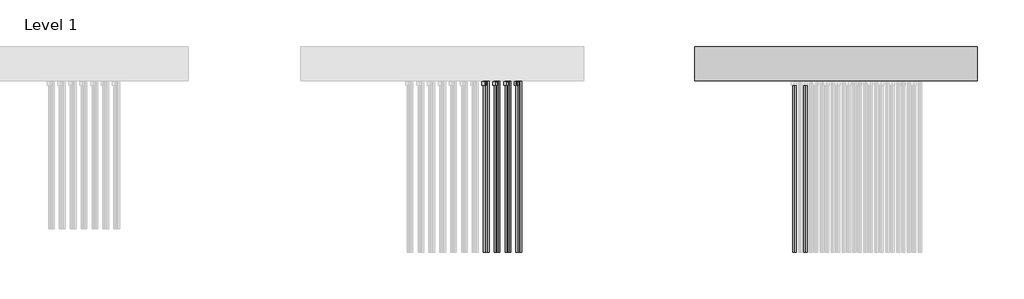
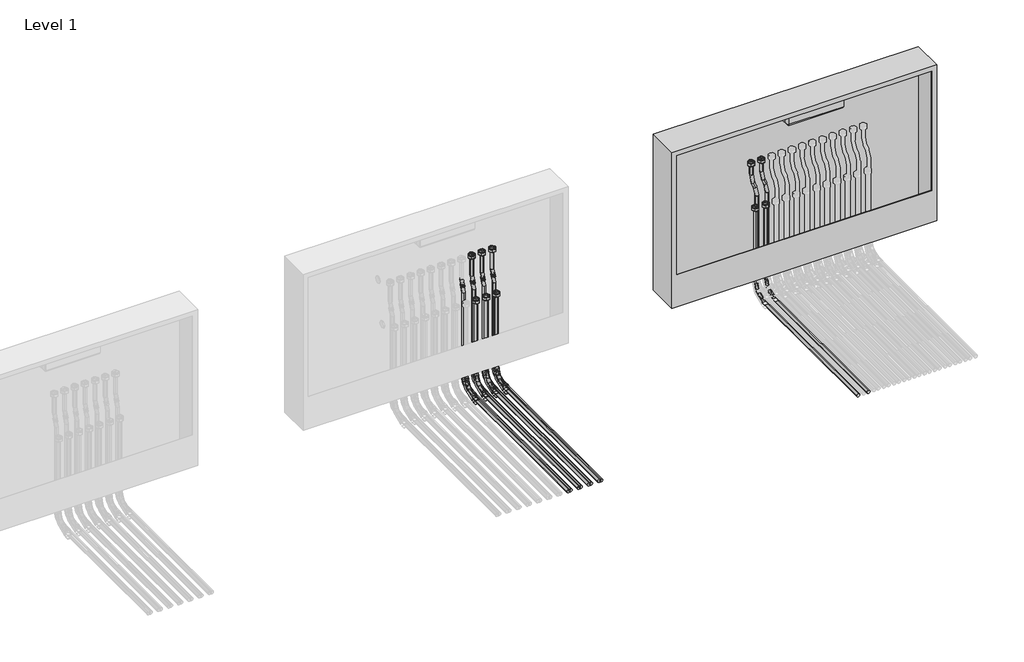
# One storey, part 13 of 15: 40 pipe fittings, 32 pipe segments, 1 proxy, 1 valve.
"""IFC4 building model written with IfcOpenShell, lengths in millimetres."""

from ifc_helpers import new_model, si_unit, point, frame, frame_2d, origin, place, context, project, spatial, circle_curve, trimmed, segment, composite_curve, outline, extrude, transform, mapped, element, save
from components import mechanical_equipment_387b3563, pipe_fitting_b05a7e06, pipe_fitting_27357a6d, pipe_fitting_daada113, pipe_fitting_3e503640, valve_75f531ea

model = new_model("IFC4")

# Units and contexts
model_context = context("Model", 3, world=origin())
ifc_project = project(units=[si_unit("LENGTHUNIT", "METRE", prefix="MILLI")], contexts=[model_context])

# Site, building, storey
site = spatial("IfcSite", under=ifc_project)
building = spatial("IfcBuilding", under=site)
storey = spatial("IfcBuildingStorey", under=building, Name="Level 1", Elevation=0.0)

# Proxy
placement = place(None, origin())
mechanical_equipment_shape = mechanical_equipment_387b3563(model_context)
element("IfcBuildingElementProxy", 1, Name="USYSTEMS_Контроллер UH-6 230В1 : Контроллер UH-6 230В 2", ObjectType="USYSTEMS_Контроллер UH-6 230В1 : Контроллер UH-6 230В 2", at=placement, inside=storey, context=model_context, shape_type="MappedRepresentation", body=[
    mapped(mechanical_equipment_shape, transform((16980.8519662, 3891.7221392, 729.375), x_axis=(1.0, 0.0, 0.0), y_axis=(0.0, 1.0, 0.0), z_axis=(0.0, 0.0, 1.0))),
])

# Pipe fittings
pipe_fitting_shape = pipe_fitting_b05a7e06(model_context)
element("IfcPipeFitting", 2, ObjectType="USYSTEMS_УгловойФиксатор_Multi : Угловой фиксатор", at=placement, inside=storey, context=model_context, shape_type="MappedRepresentation", body=[
    mapped(pipe_fitting_shape, transform((15254.1980115, 3819.7094543, -114.3211479), x_axis=(0.0, 0.0, -1.0), y_axis=(0.0, -1.0, 0.0), z_axis=(-1.0, 0.0, 0.0))),
])
element("IfcPipeFitting", 3, ObjectType="USYSTEMS_УгловойФиксатор_Multi : Угловой фиксатор", at=placement, inside=storey, context=model_context, shape_type="MappedRepresentation", body=[
    mapped(pipe_fitting_shape, transform((15264.283768, 3855.7094543, -114.3211479), x_axis=(0.0, 0.0, -1.0), y_axis=(0.0, -1.0, 0.0), z_axis=(-1.0, 0.0, 0.0))),
])
element("IfcPipeFitting", 4, ObjectType="USYSTEMS_УгловойФиксатор_Multi : Угловой фиксатор", at=placement, inside=storey, context=model_context, shape_type="MappedRepresentation", body=[
    mapped(pipe_fitting_shape, transform((15304.1980115, 3819.7094543, -114.3211479), x_axis=(0.0, 0.0, -1.0), y_axis=(0.0, -1.0, 0.0), z_axis=(-1.0, 0.0, 0.0))),
])
element("IfcPipeFitting", 5, ObjectType="USYSTEMS_УгловойФиксатор_Multi : Угловой фиксатор", at=placement, inside=storey, context=model_context, shape_type="MappedRepresentation", body=[
    mapped(pipe_fitting_shape, transform((15314.283768, 3855.7097764, -114.3211479), x_axis=(0.0, 0.0, -1.0), y_axis=(0.0, -1.0, 0.0), z_axis=(-1.0, 0.0, 0.0))),
])
element("IfcPipeFitting", 6, ObjectType="USYSTEMS_УгловойФиксатор_Multi : Угловой фиксатор", at=placement, inside=storey, context=model_context, shape_type="MappedRepresentation", body=[
    mapped(pipe_fitting_shape, transform((15354.1980115, 3819.7097764, -114.3211479), x_axis=(0.0, 0.0, -1.0), y_axis=(0.0, -1.0, 0.0), z_axis=(-1.0, 0.0, 0.0))),
])
element("IfcPipeFitting", 7, ObjectType="USYSTEMS_УгловойФиксатор_Multi : Угловой фиксатор", at=placement, inside=storey, context=model_context, shape_type="MappedRepresentation", body=[
    mapped(pipe_fitting_shape, transform((15364.283768, 3855.7097764, -114.3211479), x_axis=(0.0, 0.0, -1.0), y_axis=(0.0, -1.0, 0.0), z_axis=(-1.0, 0.0, 0.0))),
])
element("IfcPipeFitting", 8, ObjectType="USYSTEMS_УгловойФиксатор_Multi : Угловой фиксатор", at=placement, inside=storey, context=model_context, shape_type="MappedRepresentation", body=[
    mapped(pipe_fitting_shape, transform((15404.1980115, 3819.7094543, -114.3211479), x_axis=(0.0, 0.0, -1.0), y_axis=(0.0, -1.0, 0.0), z_axis=(-1.0, 0.0, 0.0))),
])
element("IfcPipeFitting", 9, ObjectType="USYSTEMS_УгловойФиксатор_Multi : Угловой фиксатор", at=placement, inside=storey, context=model_context, shape_type="MappedRepresentation", body=[
    mapped(pipe_fitting_shape, transform((15414.283768, 3855.7097764, -114.3211479), x_axis=(0.0, 0.0, -1.0), y_axis=(0.0, -1.0, 0.0), z_axis=(-1.0, 0.0, 0.0))),
])
pipe_fitting_2_shape = pipe_fitting_27357a6d(model_context)
element("IfcPipeFitting", 10, ObjectType="USYSTEMS_Штуцер с внутренней резьбой_FlexX_PEX : 16x2,0 x 3/4\" ВР Евроконус", at=placement, inside=storey, context=model_context, shape_type="MappedRepresentation", body=[
    mapped(pipe_fitting_2_shape, transform((15304.1980115, 3819.7099144, 328.3084133), x_axis=(0.0, 0.0, 1.0), y_axis=(0.0, 1.0, 0.0), z_axis=(-1.0, 0.0, 0.0))),
])
element("IfcPipeFitting", 11, ObjectType="USYSTEMS_Штуцер с внутренней резьбой_FlexX_PEX : 16x2,0 x 3/4\" ВР Евроконус", at=placement, inside=storey, context=model_context, shape_type="MappedRepresentation", body=[
    mapped(pipe_fitting_2_shape, transform((15304.1980115, 3855.7099144, 538.3084133), x_axis=(0.0, 0.0, 1.0), y_axis=(0.0, 1.0, 0.0), z_axis=(-1.0, 0.0, 0.0))),
])
element("IfcPipeFitting", 12, ObjectType="USYSTEMS_Штуцер с внутренней резьбой_FlexX_PEX : 16x2,0 x 3/4\" ВР Евроконус", at=placement, inside=storey, context=model_context, shape_type="MappedRepresentation", body=[
    mapped(pipe_fitting_2_shape, transform((15354.1980115, 3819.7099144, 328.3084133), x_axis=(0.0, 0.0, 1.0), y_axis=(0.0, 1.0, 0.0), z_axis=(-1.0, 0.0, 0.0))),
])
element("IfcPipeFitting", 13, ObjectType="USYSTEMS_Штуцер с внутренней резьбой_FlexX_PEX : 16x2,0 x 3/4\" ВР Евроконус", at=placement, inside=storey, context=model_context, shape_type="MappedRepresentation", body=[
    mapped(pipe_fitting_2_shape, transform((15354.1980115, 3855.7099144, 538.3084133), x_axis=(0.0, 0.0, 1.0), y_axis=(0.0, 1.0, 0.0), z_axis=(-1.0, 0.0, 0.0))),
])
element("IfcPipeFitting", 14, ObjectType="USYSTEMS_Штуцер с внутренней резьбой_FlexX_PEX : 16x2,0 x 3/4\" ВР Евроконус", at=placement, inside=storey, context=model_context, shape_type="MappedRepresentation", body=[
    mapped(pipe_fitting_2_shape, transform((15404.1980115, 3819.7099144, 328.3084133), x_axis=(0.0, 0.0, 1.0), y_axis=(0.0, 1.0, 0.0), z_axis=(-1.0, 0.0, 0.0))),
])
element("IfcPipeFitting", 15, ObjectType="USYSTEMS_Штуцер с внутренней резьбой_FlexX_PEX : 16x2,0 x 3/4\" ВР Евроконус", at=placement, inside=storey, context=model_context, shape_type="MappedRepresentation", body=[
    mapped(pipe_fitting_2_shape, transform((15404.1980115, 3855.7099144, 538.3084133), x_axis=(0.0, 0.0, 1.0), y_axis=(0.0, 1.0, 0.0), z_axis=(-1.0, 0.0, 0.0))),
])
element("IfcPipeFitting", 16, ObjectType="USYSTEMS_Штуцер с внутренней резьбой_FlexX_PEX : 16x2,0 x 3/4\" ВР Евроконус", at=placement, inside=storey, context=model_context, shape_type="MappedRepresentation", body=[
    mapped(pipe_fitting_2_shape, transform((16725.5332377, 3855.7850993, 538.3084133), x_axis=(0.0, 0.0, 1.0), y_axis=(0.0, 1.0, 0.0), z_axis=(-1.0, 0.0, 0.0))),
])
element("IfcPipeFitting", 17, ObjectType="USYSTEMS_Штуцер с внутренней резьбой_FlexX_PEX : 16x2,0 x 3/4\" ВР Евроконус", at=placement, inside=storey, context=model_context, shape_type="MappedRepresentation", body=[
    mapped(pipe_fitting_2_shape, transform((16725.5332377, 3819.7850993, 328.3084133), x_axis=(0.0, 0.0, 1.0), y_axis=(0.0, 1.0, 0.0), z_axis=(-1.0, 0.0, 0.0))),
])
element("IfcPipeFitting", 18, ObjectType="USYSTEMS_Штуцер с внутренней резьбой_FlexX_PEX : 16x2,0 x 3/4\" ВР Евроконус", at=placement, inside=storey, context=model_context, shape_type="MappedRepresentation", body=[
    mapped(pipe_fitting_2_shape, transform((16675.5332377, 3819.7850993, 328.3084133), x_axis=(0.0, 0.0, 1.0), y_axis=(0.0, 1.0, 0.0), z_axis=(-1.0, 0.0, 0.0))),
])
element("IfcPipeFitting", 19, ObjectType="USYSTEMS_Штуцер с внутренней резьбой_FlexX_PEX : 16x2,0 x 3/4\" ВР Евроконус", at=placement, inside=storey, context=model_context, shape_type="MappedRepresentation", body=[
    mapped(pipe_fitting_2_shape, transform((16675.5332377, 3855.7850993, 538.3084133), x_axis=(0.0, 0.0, 1.0), y_axis=(0.0, 1.0, 0.0), z_axis=(-1.0, 0.0, 0.0))),
])
pipe_fitting_3_shape = pipe_fitting_daada113(model_context)
element("IfcPipeFitting", 20, ObjectType="USYSTEMS_Гнутая труба_Radi Pipe : PN 6 в бухтах", at=placement, inside=storey, context=model_context, shape_type="MappedRepresentation", body=[
    mapped(pipe_fitting_3_shape, transform((15254.1980115, 3855.7091545, 414.5388211), x_axis=(0.0, 0.0, -1.0), y_axis=(1.0, 0.0, 0.0), z_axis=(0.0, -1.0, 0.0))),
])
element("IfcPipeFitting", 21, ObjectType="USYSTEMS_Гнутая труба_Radi Pipe : PN 6 в бухтах", at=placement, inside=storey, context=model_context, shape_type="MappedRepresentation", body=[
    mapped(pipe_fitting_3_shape, transform((15264.283768, 3855.7094543, 388.2645272), x_axis=(0.3583679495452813, 0.0, -0.9335804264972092), y_axis=(-0.9335804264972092, 0.0, -0.3583679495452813), z_axis=(0.0, 1.0, 0.0))),
])
element("IfcPipeFitting", 22, ObjectType="USYSTEMS_Гнутая труба_Radi Pipe : PN 6 в бухтах", at=placement, inside=storey, context=model_context, shape_type="MappedRepresentation", body=[
    mapped(pipe_fitting_3_shape, transform((15304.1980115, 3855.7096864, 414.5388211), x_axis=(0.0, 0.0, -1.0), y_axis=(1.0, 0.0, 0.0), z_axis=(0.0, -1.0, 0.0))),
])
element("IfcPipeFitting", 23, ObjectType="USYSTEMS_Гнутая труба_Radi Pipe : PN 6 в бухтах", at=placement, inside=storey, context=model_context, shape_type="MappedRepresentation", body=[
    mapped(pipe_fitting_3_shape, transform((15314.283768, 3855.7097764, 388.2645272), x_axis=(0.3583679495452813, 0.0, -0.9335804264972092), y_axis=(-0.9335804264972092, 0.0, -0.3583679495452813), z_axis=(0.0, 1.0, 0.0))),
])
element("IfcPipeFitting", 24, ObjectType="USYSTEMS_Гнутая труба_Radi Pipe : PN 6 в бухтах", at=placement, inside=storey, context=model_context, shape_type="MappedRepresentation", body=[
    mapped(pipe_fitting_3_shape, transform((15354.1980115, 3855.7096864, 414.5388211), x_axis=(0.0, 0.0, -1.0), y_axis=(1.0, 0.0, 0.0), z_axis=(0.0, -1.0, 0.0))),
])
element("IfcPipeFitting", 25, ObjectType="USYSTEMS_Гнутая труба_Radi Pipe : PN 6 в бухтах", at=placement, inside=storey, context=model_context, shape_type="MappedRepresentation", body=[
    mapped(pipe_fitting_3_shape, transform((15364.283768, 3855.7097764, 388.2645272), x_axis=(0.3583679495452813, 0.0, -0.9335804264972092), y_axis=(-0.9335804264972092, 0.0, -0.3583679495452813), z_axis=(0.0, 1.0, 0.0))),
])
element("IfcPipeFitting", 26, ObjectType="USYSTEMS_Гнутая труба_Radi Pipe : PN 6 в бухтах", at=placement, inside=storey, context=model_context, shape_type="MappedRepresentation", body=[
    mapped(pipe_fitting_3_shape, transform((15404.1980115, 3855.7096864, 414.5388211), x_axis=(0.0, 0.0, -1.0), y_axis=(1.0, 0.0, 0.0), z_axis=(0.0, -1.0, 0.0))),
])
element("IfcPipeFitting", 27, ObjectType="USYSTEMS_Гнутая труба_Radi Pipe : PN 6 в бухтах", at=placement, inside=storey, context=model_context, shape_type="MappedRepresentation", body=[
    mapped(pipe_fitting_3_shape, transform((15414.283768, 3855.7097764, 388.2645272), x_axis=(0.3583679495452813, 0.0, -0.9335804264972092), y_axis=(-0.9335804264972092, 0.0, -0.3583679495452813), z_axis=(0.0, 1.0, 0.0))),
])
pipe_fitting_4_shape = pipe_fitting_3e503640(model_context)
element("IfcPipeFitting", 28, ObjectType="USYSTEMS_Гнутая труба_Radi Pipe : PN 6 в бухтах_С фиксатором", at=placement, inside=storey, context=model_context, shape_type="MappedRepresentation", body=[
    mapped(pipe_fitting_4_shape, transform((15254.1980115, 3819.7094543, -114.3211479), x_axis=(0.0, 0.0, -1.0), y_axis=(0.0, -1.0, 0.0), z_axis=(-1.0, 0.0, 0.0))),
])
element("IfcPipeFitting", 29, ObjectType="USYSTEMS_Гнутая труба_Radi Pipe : PN 6 в бухтах_С фиксатором", at=placement, inside=storey, context=model_context, shape_type="MappedRepresentation", body=[
    mapped(pipe_fitting_4_shape, transform((15264.283768, 3855.7094543, -114.3211479), x_axis=(0.0, 0.0, -1.0), y_axis=(0.0, -1.0, 0.0), z_axis=(-1.0, 0.0, 0.0))),
])
element("IfcPipeFitting", 30, ObjectType="USYSTEMS_Гнутая труба_Radi Pipe : PN 6 в бухтах_С фиксатором", at=placement, inside=storey, context=model_context, shape_type="MappedRepresentation", body=[
    mapped(pipe_fitting_4_shape, transform((15304.1980115, 3819.7094543, -114.3211479), x_axis=(0.0, 0.0, -1.0), y_axis=(0.0, -1.0, 0.0), z_axis=(-1.0, 0.0, 0.0))),
])
element("IfcPipeFitting", 31, ObjectType="USYSTEMS_Гнутая труба_Radi Pipe : PN 6 в бухтах_С фиксатором", at=placement, inside=storey, context=model_context, shape_type="MappedRepresentation", body=[
    mapped(pipe_fitting_4_shape, transform((15314.283768, 3855.7097764, -114.3211479), x_axis=(0.0, 0.0, -1.0), y_axis=(0.0, -1.0, 0.0), z_axis=(-1.0, 0.0, 0.0))),
])
element("IfcPipeFitting", 32, ObjectType="USYSTEMS_Гнутая труба_Radi Pipe : PN 6 в бухтах_С фиксатором", at=placement, inside=storey, context=model_context, shape_type="MappedRepresentation", body=[
    mapped(pipe_fitting_4_shape, transform((15354.1980115, 3819.7097764, -114.3211479), x_axis=(0.0, 0.0, -1.0), y_axis=(0.0, -1.0, 0.0), z_axis=(-1.0, 0.0, 0.0))),
])
element("IfcPipeFitting", 33, ObjectType="USYSTEMS_Гнутая труба_Radi Pipe : PN 6 в бухтах_С фиксатором", at=placement, inside=storey, context=model_context, shape_type="MappedRepresentation", body=[
    mapped(pipe_fitting_4_shape, transform((15364.283768, 3855.7097764, -114.3211479), x_axis=(0.0, 0.0, -1.0), y_axis=(0.0, -1.0, 0.0), z_axis=(-1.0, 0.0, 0.0))),
])
element("IfcPipeFitting", 34, ObjectType="USYSTEMS_Гнутая труба_Radi Pipe : PN 6 в бухтах_С фиксатором", at=placement, inside=storey, context=model_context, shape_type="MappedRepresentation", body=[
    mapped(pipe_fitting_4_shape, transform((15404.1980115, 3819.7094543, -114.3211479), x_axis=(0.0, 0.0, -1.0), y_axis=(0.0, -1.0, 0.0), z_axis=(-1.0, 0.0, 0.0))),
])
element("IfcPipeFitting", 35, ObjectType="USYSTEMS_Гнутая труба_Radi Pipe : PN 6 в бухтах_С фиксатором", at=placement, inside=storey, context=model_context, shape_type="MappedRepresentation", body=[
    mapped(pipe_fitting_4_shape, transform((15414.283768, 3855.7097764, -114.3211479), x_axis=(0.0, 0.0, -1.0), y_axis=(0.0, -1.0, 0.0), z_axis=(-1.0, 0.0, 0.0))),
])
element("IfcPipeFitting", 36, ObjectType="USYSTEMS_Гнутая труба_Radi Pipe : PN 6 в бухтах", at=placement, inside=storey, context=model_context, shape_type="MappedRepresentation", body=[
    mapped(pipe_fitting_3_shape, transform((16675.5332377, 3855.7850993, 458.6280399), x_axis=(0.0, 0.0, -1.0), y_axis=(1.0, 0.0, 0.0), z_axis=(0.0, -1.0, 0.0))),
])
element("IfcPipeFitting", 37, ObjectType="USYSTEMS_Гнутая труба_Radi Pipe : PN 6 в бухтах", at=placement, inside=storey, context=model_context, shape_type="MappedRepresentation", body=[
    mapped(pipe_fitting_3_shape, transform((16702.5432596, 3855.7846392, 388.2645272), x_axis=(0.3583679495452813, 0.0, -0.9335804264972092), y_axis=(-0.9335804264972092, 0.0, -0.3583679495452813), z_axis=(0.0, 1.0, 0.0))),
])
element("IfcPipeFitting", 38, ObjectType="USYSTEMS_Гнутая труба_Radi Pipe : PN 6 в бухтах", at=placement, inside=storey, context=model_context, shape_type="MappedRepresentation", body=[
    mapped(pipe_fitting_3_shape, transform((16725.5332377, 3855.7850993, 458.6014377), x_axis=(0.0, 0.0, -1.0), y_axis=(1.0, 0.0, 0.0), z_axis=(0.0, -1.0, 0.0))),
])
element("IfcPipeFitting", 39, ObjectType="USYSTEMS_Гнутая труба_Radi Pipe : PN 6 в бухтах", at=placement, inside=storey, context=model_context, shape_type="MappedRepresentation", body=[
    mapped(pipe_fitting_3_shape, transform((16752.5432596, 3855.7846392, 388.237925), x_axis=(0.3583679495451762, 0.0, -0.9335804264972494), y_axis=(-0.9335804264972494, 0.0, -0.3583679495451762), z_axis=(0.0, 1.0, 0.0))),
])
element("IfcPipeFitting", 40, ObjectType="USYSTEMS_Гнутая труба_Radi Pipe : PN 6 в бухтах_С фиксатором", at=placement, inside=storey, context=model_context, shape_type="MappedRepresentation", body=[
    mapped(pipe_fitting_4_shape, transform((16675.5332377, 3819.7850993, -114.3211479), x_axis=(0.0, 0.0, -1.0), y_axis=(0.0, -1.0, 0.0), z_axis=(-1.0, 0.0, 0.0))),
])
element("IfcPipeFitting", 41, ObjectType="USYSTEMS_Гнутая труба_Radi Pipe : PN 6 в бухтах_С фиксатором", at=placement, inside=storey, context=model_context, shape_type="MappedRepresentation", body=[
    mapped(pipe_fitting_4_shape, transform((16725.5332377, 3819.7850993, -114.3211479), x_axis=(0.0, 0.0, -1.0), y_axis=(0.0, -1.0, 0.0), z_axis=(-1.0, 0.0, 0.0))),
])

# Pipe segments
element("IfcPipeSegment", 42, ObjectType="USYSTEMS труба Radi Pipe белая PN6", at=placement, inside=storey, context=model_context, shape_type="SweptSolid", body=[
    extrude(outline(composite_curve([segment(trimmed(circle_curve(frame_2d((0.0, 8.0)), 8.0), [point((0.0003714, 16.0))], [point((8.0, 7.9996286))], False, "CARTESIAN"), True, "CONTINUOUS"), segment(trimmed(circle_curve(frame_2d((0.0, 8.0)), 8.0), [point((8.0, 7.9996286))], [point((-0.0003714, 0.0))], False, "CARTESIAN"), True, "CONTINUOUS"), segment(trimmed(circle_curve(frame_2d((0.0, 8.0)), 8.0), [point((-0.0003714, 0.0))], [point((-8.0, 8.0003714))], False, "CARTESIAN"), True, "CONTINUOUS"), segment(trimmed(circle_curve(frame_2d((0.0, 8.0)), 8.0), [point((-8.0, 8.0003714))], [point((0.0003714, 16.0))], False, "CARTESIAN"), True, "CONTINUOUS")], self_intersect=False)), frame((15262.6997169, 3847.7091545, 392.3912544), z_axis=(-0.3583679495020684, 1.553238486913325e-05, 0.9335804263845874), x_axis=(0.933580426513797, 5.96232392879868e-06, 0.3583679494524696)), (0.0, 0.0, 1.0), 19.3032171),
])
element("IfcPipeSegment", 43, ObjectType="USYSTEMS труба Radi Pipe белая PN6", at=placement, inside=storey, context=model_context, shape_type="SweptSolid", body=[
    extrude(outline(composite_curve([segment(trimmed(circle_curve(frame_2d((15264.283768, 3855.7094543)), 8.0), [point((15272.283768, 3855.7094543))], [point((15264.283768, 3847.7094543))], False, "CARTESIAN"), True, "CONTINUOUS"), segment(trimmed(circle_curve(frame_2d((15264.283768, 3855.7094543)), 8.0), [point((15264.283768, 3847.7094543))], [point((15256.283768, 3855.7094543))], False, "CARTESIAN"), True, "CONTINUOUS"), segment(trimmed(circle_curve(frame_2d((15264.283768, 3855.7094543)), 8.0), [point((15256.283768, 3855.7094543))], [point((15264.283768, 3863.7094543))], False, "CARTESIAN"), True, "CONTINUOUS"), segment(trimmed(circle_curve(frame_2d((15264.283768, 3855.7094543)), 8.0), [point((15264.283768, 3863.7094543))], [point((15272.283768, 3855.7094543))], False, "CARTESIAN"), True, "CONTINUOUS")], self_intersect=False)), frame((0.0, 0.0, -43.3211479), z_axis=(0.0, 0.0, 1.0), x_axis=(1.0, 0.0, 0.0)), (0.0, 0.0, 1.0), 407.8622774),
])
element("IfcPipeSegment", 44, ObjectType="USYSTEMS труба Radi Pipe белая PN6", at=placement, inside=storey, context=model_context, shape_type="SweptSolid", body=[
    extrude(outline(composite_curve([segment(trimmed(circle_curve(frame_2d((-114.3211479, 15254.1980115)), 8.0), [point((-114.3211479, 15246.1980115))], [point((-122.3211479, 15254.1980115))], False, "CARTESIAN"), True, "CONTINUOUS"), segment(trimmed(circle_curve(frame_2d((-114.3211479, 15254.1980115)), 8.0), [point((-122.3211479, 15254.1980115))], [point((-114.3211479, 15262.1980115))], False, "CARTESIAN"), True, "CONTINUOUS"), segment(trimmed(circle_curve(frame_2d((-114.3211479, 15254.1980115)), 8.0), [point((-114.3211479, 15262.1980115))], [point((-106.3211479, 15254.1980115))], False, "CARTESIAN"), True, "CONTINUOUS"), segment(trimmed(circle_curve(frame_2d((-114.3211479, 15254.1980115)), 8.0), [point((-106.3211479, 15254.1980115))], [point((-114.3211479, 15246.1980115))], False, "CARTESIAN"), True, "CONTINUOUS")], self_intersect=False)), frame((0.0, 2946.5844543, 0.0), z_axis=(0.0, 1.0, 0.0), x_axis=(0.0, 0.0, 1.0)), (0.0, 0.0, 1.0), 802.125),
])
element("IfcPipeSegment", 45, ObjectType="USYSTEMS труба Radi Pipe белая PN6", at=placement, inside=storey, context=model_context, shape_type="SweptSolid", body=[
    extrude(outline(composite_curve([segment(trimmed(circle_curve(frame_2d((-114.3211479, 15264.283768)), 8.0), [point((-114.3211479, 15256.283768))], [point((-122.3211479, 15264.283768))], False, "CARTESIAN"), True, "CONTINUOUS"), segment(trimmed(circle_curve(frame_2d((-114.3211479, 15264.283768)), 8.0), [point((-122.3211479, 15264.283768))], [point((-114.3211479, 15272.283768))], False, "CARTESIAN"), True, "CONTINUOUS"), segment(trimmed(circle_curve(frame_2d((-114.3211479, 15264.283768)), 8.0), [point((-114.3211479, 15272.283768))], [point((-106.3211479, 15264.283768))], False, "CARTESIAN"), True, "CONTINUOUS"), segment(trimmed(circle_curve(frame_2d((-114.3211479, 15264.283768)), 8.0), [point((-106.3211479, 15264.283768))], [point((-114.3211479, 15256.283768))], False, "CARTESIAN"), True, "CONTINUOUS")], self_intersect=False)), frame((0.0, 2946.5844543, 0.0), z_axis=(0.0, 1.0, 0.0), x_axis=(0.0, 0.0, 1.0)), (0.0, 0.0, 1.0), 838.125),
])
element("IfcPipeSegment", 46, ObjectType="USYSTEMS труба Radi Pipe белая PN6", at=placement, inside=storey, context=model_context, shape_type="SweptSolid", body=[
    extrude(outline(composite_curve([segment(trimmed(circle_curve(frame_2d((0.0, -8.0)), 8.0), [point((-8.0, -8.0))], [point((0.0, 0.0))], False, "CARTESIAN"), True, "CONTINUOUS"), segment(trimmed(circle_curve(frame_2d((0.0, -8.0)), 8.0), [point((0.0, 0.0))], [point((8.0, -8.0))], False, "CARTESIAN"), True, "CONTINUOUS"), segment(trimmed(circle_curve(frame_2d((0.0, -8.0)), 8.0), [point((8.0, -8.0))], [point((0.0, -16.0))], False, "CARTESIAN"), True, "CONTINUOUS"), segment(trimmed(circle_curve(frame_2d((0.0, -8.0)), 8.0), [point((0.0, -16.0))], [point((-8.0, -8.0))], False, "CARTESIAN"), True, "CONTINUOUS")], self_intersect=False)), frame((15304.1980115, 3811.7094543, -43.321138), z_axis=(0.0, 1.241500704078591e-06, 0.9999999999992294), x_axis=(-1.0, 0.0, 0.0)), (0.0, 0.0, 1.0), 370.6295612),
])
element("IfcPipeSegment", 47, ObjectType="USYSTEMS труба Radi Pipe белая PN6", at=placement, inside=storey, context=model_context, shape_type="SweptSolid", body=[
    extrude(outline(composite_curve([segment(trimmed(circle_curve(frame_2d((0.0, -8.0)), 8.0), [point((-8.0, -8.0))], [point((0.0, 0.0))], False, "CARTESIAN"), True, "CONTINUOUS"), segment(trimmed(circle_curve(frame_2d((0.0, -8.0)), 8.0), [point((0.0, 0.0))], [point((8.0, -8.0))], False, "CARTESIAN"), True, "CONTINUOUS"), segment(trimmed(circle_curve(frame_2d((0.0, -8.0)), 8.0), [point((8.0, -8.0))], [point((0.0, -16.0))], False, "CARTESIAN"), True, "CONTINUOUS"), segment(trimmed(circle_curve(frame_2d((0.0, -8.0)), 8.0), [point((0.0, -16.0))], [point((-8.0, -8.0))], False, "CARTESIAN"), True, "CONTINUOUS")], self_intersect=False)), frame((15304.1980115, 3847.7096864, 438.2622373), z_axis=(0.0, 2.3018406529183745e-06, 0.9999999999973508), x_axis=(-1.0, 0.0, 0.0)), (0.0, 0.0, 1.0), 99.0461944),
])
element("IfcPipeSegment", 48, ObjectType="USYSTEMS труба Radi Pipe белая PN6", at=placement, inside=storey, context=model_context, shape_type="SweptSolid", body=[
    extrude(outline(composite_curve([segment(trimmed(circle_curve(frame_2d((0.0, 8.0)), 8.0), [point((0.0001114, 16.0))], [point((8.0, 7.9998886))], False, "CARTESIAN"), True, "CONTINUOUS"), segment(trimmed(circle_curve(frame_2d((0.0, 8.0)), 8.0), [point((8.0, 7.9998886))], [point((-0.0001114, 0.0))], False, "CARTESIAN"), True, "CONTINUOUS"), segment(trimmed(circle_curve(frame_2d((0.0, 8.0)), 8.0), [point((-0.0001114, 0.0))], [point((-8.0, 8.0001115))], False, "CARTESIAN"), True, "CONTINUOUS"), segment(trimmed(circle_curve(frame_2d((0.0, 8.0)), 8.0), [point((-8.0, 8.0001115))], [point((0.0001114, 16.0))], False, "CARTESIAN"), True, "CONTINUOUS")], self_intersect=False)), frame((15312.6997169, 3847.7096864, 392.3911613), z_axis=(-0.3583679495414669, 4.659715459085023e-06, 0.9335804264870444), x_axis=(0.9335804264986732, 1.7886971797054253e-06, 0.35836794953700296)), (0.0, 0.0, 1.0), 19.3032171),
])
element("IfcPipeSegment", 49, ObjectType="USYSTEMS труба Radi Pipe белая PN6", at=placement, inside=storey, context=model_context, shape_type="SweptSolid", body=[
    extrude(outline(composite_curve([segment(trimmed(circle_curve(frame_2d((15314.283768, 3855.7097764)), 8.0), [point((15322.283768, 3855.7097764))], [point((15314.283768, 3847.7097764))], False, "CARTESIAN"), True, "CONTINUOUS"), segment(trimmed(circle_curve(frame_2d((15314.283768, 3855.7097764)), 8.0), [point((15314.283768, 3847.7097764))], [point((15306.283768, 3855.7097764))], False, "CARTESIAN"), True, "CONTINUOUS"), segment(trimmed(circle_curve(frame_2d((15314.283768, 3855.7097764)), 8.0), [point((15306.283768, 3855.7097764))], [point((15314.283768, 3863.7097764))], False, "CARTESIAN"), True, "CONTINUOUS"), segment(trimmed(circle_curve(frame_2d((15314.283768, 3855.7097764)), 8.0), [point((15314.283768, 3863.7097764))], [point((15322.283768, 3855.7097764))], False, "CARTESIAN"), True, "CONTINUOUS")], self_intersect=False)), frame((0.0, 0.0, -43.3211479), z_axis=(0.0, 0.0, 1.0), x_axis=(1.0, 0.0, 0.0)), (0.0, 0.0, 1.0), 407.8622774),
])
element("IfcPipeSegment", 50, ObjectType="USYSTEMS труба Radi Pipe белая PN6", at=placement, inside=storey, context=model_context, shape_type="SweptSolid", body=[
    extrude(outline(composite_curve([segment(trimmed(circle_curve(frame_2d((-114.3211479, 15304.1980115)), 8.0), [point((-114.3211479, 15296.1980115))], [point((-122.3211479, 15304.1980115))], False, "CARTESIAN"), True, "CONTINUOUS"), segment(trimmed(circle_curve(frame_2d((-114.3211479, 15304.1980115)), 8.0), [point((-122.3211479, 15304.1980115))], [point((-114.3211479, 15312.1980115))], False, "CARTESIAN"), True, "CONTINUOUS"), segment(trimmed(circle_curve(frame_2d((-114.3211479, 15304.1980115)), 8.0), [point((-114.3211479, 15312.1980115))], [point((-106.3211479, 15304.1980115))], False, "CARTESIAN"), True, "CONTINUOUS"), segment(trimmed(circle_curve(frame_2d((-114.3211479, 15304.1980115)), 8.0), [point((-106.3211479, 15304.1980115))], [point((-114.3211479, 15296.1980115))], False, "CARTESIAN"), True, "CONTINUOUS")], self_intersect=False)), frame((0.0, 2946.5844543, 0.0), z_axis=(0.0, 1.0, 0.0), x_axis=(0.0, 0.0, 1.0)), (0.0, 0.0, 1.0), 802.125),
])
element("IfcPipeSegment", 51, ObjectType="USYSTEMS труба Radi Pipe белая PN6", at=placement, inside=storey, context=model_context, shape_type="SweptSolid", body=[
    extrude(outline(composite_curve([segment(trimmed(circle_curve(frame_2d((-114.3211479, 15314.283768)), 8.0), [point((-114.3211479, 15306.283768))], [point((-122.3211479, 15314.283768))], False, "CARTESIAN"), True, "CONTINUOUS"), segment(trimmed(circle_curve(frame_2d((-114.3211479, 15314.283768)), 8.0), [point((-122.3211479, 15314.283768))], [point((-114.3211479, 15322.283768))], False, "CARTESIAN"), True, "CONTINUOUS"), segment(trimmed(circle_curve(frame_2d((-114.3211479, 15314.283768)), 8.0), [point((-114.3211479, 15322.283768))], [point((-106.3211479, 15314.283768))], False, "CARTESIAN"), True, "CONTINUOUS"), segment(trimmed(circle_curve(frame_2d((-114.3211479, 15314.283768)), 8.0), [point((-106.3211479, 15314.283768))], [point((-114.3211479, 15306.283768))], False, "CARTESIAN"), True, "CONTINUOUS")], self_intersect=False)), frame((0.0, 2946.5844543, 0.0), z_axis=(0.0, 1.0, 0.0), x_axis=(0.0, 0.0, 1.0)), (0.0, 0.0, 1.0), 838.1253221),
])
element("IfcPipeSegment", 52, ObjectType="USYSTEMS труба Radi Pipe белая PN6", at=placement, inside=storey, context=model_context, shape_type="SweptSolid", body=[
    extrude(outline(composite_curve([segment(trimmed(circle_curve(frame_2d((0.0, -8.0)), 8.0), [point((-8.0, -8.0))], [point((0.0, 0.0))], False, "CARTESIAN"), True, "CONTINUOUS"), segment(trimmed(circle_curve(frame_2d((0.0, -8.0)), 8.0), [point((0.0, 0.0))], [point((8.0, -8.0))], False, "CARTESIAN"), True, "CONTINUOUS"), segment(trimmed(circle_curve(frame_2d((0.0, -8.0)), 8.0), [point((8.0, -8.0))], [point((0.0, -16.0))], False, "CARTESIAN"), True, "CONTINUOUS"), segment(trimmed(circle_curve(frame_2d((0.0, -8.0)), 8.0), [point((0.0, -16.0))], [point((-8.0, -8.0))], False, "CARTESIAN"), True, "CONTINUOUS")], self_intersect=False)), frame((15354.1980115, 3811.7097764, -43.3211449), z_axis=(0.0, 3.724502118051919e-07, 0.9999999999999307), x_axis=(-1.0, 0.0, 0.0)), (0.0, 0.0, 1.0), 370.6295612),
])
element("IfcPipeSegment", 53, ObjectType="USYSTEMS труба Radi Pipe белая PN6", at=placement, inside=storey, context=model_context, shape_type="SweptSolid", body=[
    extrude(outline(composite_curve([segment(trimmed(circle_curve(frame_2d((0.0, -8.0)), 8.0), [point((-8.0, -8.0))], [point((0.0, 0.0))], False, "CARTESIAN"), True, "CONTINUOUS"), segment(trimmed(circle_curve(frame_2d((0.0, -8.0)), 8.0), [point((0.0, 0.0))], [point((8.0, -8.0))], False, "CARTESIAN"), True, "CONTINUOUS"), segment(trimmed(circle_curve(frame_2d((0.0, -8.0)), 8.0), [point((8.0, -8.0))], [point((0.0, -16.0))], False, "CARTESIAN"), True, "CONTINUOUS"), segment(trimmed(circle_curve(frame_2d((0.0, -8.0)), 8.0), [point((0.0, -16.0))], [point((-8.0, -8.0))], False, "CARTESIAN"), True, "CONTINUOUS")], self_intersect=False)), frame((15354.1980115, 3847.7096864, 438.2622373), z_axis=(0.0, 2.301840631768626e-06, 0.9999999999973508), x_axis=(-1.0, 0.0, 0.0)), (0.0, 0.0, 1.0), 99.0461944),
])
element("IfcPipeSegment", 54, ObjectType="USYSTEMS труба Radi Pipe белая PN6", at=placement, inside=storey, context=model_context, shape_type="SweptSolid", body=[
    extrude(outline(composite_curve([segment(trimmed(circle_curve(frame_2d((0.0, 8.0)), 8.0), [point((0.0001114, 16.0))], [point((8.0, 7.9998886))], False, "CARTESIAN"), True, "CONTINUOUS"), segment(trimmed(circle_curve(frame_2d((0.0, 8.0)), 8.0), [point((8.0, 7.9998886))], [point((-0.0001114, 0.0))], False, "CARTESIAN"), True, "CONTINUOUS"), segment(trimmed(circle_curve(frame_2d((0.0, 8.0)), 8.0), [point((-0.0001114, 0.0))], [point((-8.0, 8.0001115))], False, "CARTESIAN"), True, "CONTINUOUS"), segment(trimmed(circle_curve(frame_2d((0.0, 8.0)), 8.0), [point((-8.0, 8.0001115))], [point((0.0001114, 16.0))], False, "CARTESIAN"), True, "CONTINUOUS")], self_intersect=False)), frame((15362.6997169, 3847.7096864, 392.3911613), z_axis=(-0.3583679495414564, 4.659715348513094e-06, 0.9335804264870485), x_axis=(0.9335804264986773, 1.7886971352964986e-06, 0.35836794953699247)), (0.0, 0.0, 1.0), 19.3032171),
])
element("IfcPipeSegment", 55, ObjectType="USYSTEMS труба Radi Pipe белая PN6", at=placement, inside=storey, context=model_context, shape_type="SweptSolid", body=[
    extrude(outline(composite_curve([segment(trimmed(circle_curve(frame_2d((15364.283768, 3855.7097764)), 8.0), [point((15372.283768, 3855.7097764))], [point((15364.283768, 3847.7097764))], False, "CARTESIAN"), True, "CONTINUOUS"), segment(trimmed(circle_curve(frame_2d((15364.283768, 3855.7097764)), 8.0), [point((15364.283768, 3847.7097764))], [point((15356.283768, 3855.7097764))], False, "CARTESIAN"), True, "CONTINUOUS"), segment(trimmed(circle_curve(frame_2d((15364.283768, 3855.7097764)), 8.0), [point((15356.283768, 3855.7097764))], [point((15364.283768, 3863.7097764))], False, "CARTESIAN"), True, "CONTINUOUS"), segment(trimmed(circle_curve(frame_2d((15364.283768, 3855.7097764)), 8.0), [point((15364.283768, 3863.7097764))], [point((15372.283768, 3855.7097764))], False, "CARTESIAN"), True, "CONTINUOUS")], self_intersect=False)), frame((0.0, 0.0, -43.3211479), z_axis=(0.0, 0.0, 1.0), x_axis=(1.0, 0.0, 0.0)), (0.0, 0.0, 1.0), 407.8622774),
])
element("IfcPipeSegment", 56, ObjectType="USYSTEMS труба Radi Pipe белая PN6", at=placement, inside=storey, context=model_context, shape_type="SweptSolid", body=[
    extrude(outline(composite_curve([segment(trimmed(circle_curve(frame_2d((-114.3211479, 15354.1980115)), 8.0), [point((-114.3211479, 15346.1980115))], [point((-122.3211479, 15354.1980115))], False, "CARTESIAN"), True, "CONTINUOUS"), segment(trimmed(circle_curve(frame_2d((-114.3211479, 15354.1980115)), 8.0), [point((-122.3211479, 15354.1980115))], [point((-114.3211479, 15362.1980115))], False, "CARTESIAN"), True, "CONTINUOUS"), segment(trimmed(circle_curve(frame_2d((-114.3211479, 15354.1980115)), 8.0), [point((-114.3211479, 15362.1980115))], [point((-106.3211479, 15354.1980115))], False, "CARTESIAN"), True, "CONTINUOUS"), segment(trimmed(circle_curve(frame_2d((-114.3211479, 15354.1980115)), 8.0), [point((-106.3211479, 15354.1980115))], [point((-114.3211479, 15346.1980115))], False, "CARTESIAN"), True, "CONTINUOUS")], self_intersect=False)), frame((0.0, 2946.5844543, 0.0), z_axis=(0.0, 1.0, 0.0), x_axis=(0.0, 0.0, 1.0)), (0.0, 0.0, 1.0), 802.1253221),
])
element("IfcPipeSegment", 57, ObjectType="USYSTEMS труба Radi Pipe белая PN6", at=placement, inside=storey, context=model_context, shape_type="SweptSolid", body=[
    extrude(outline(composite_curve([segment(trimmed(circle_curve(frame_2d((-114.3211479, 15364.283768)), 8.0), [point((-114.3211479, 15356.283768))], [point((-122.3211479, 15364.283768))], False, "CARTESIAN"), True, "CONTINUOUS"), segment(trimmed(circle_curve(frame_2d((-114.3211479, 15364.283768)), 8.0), [point((-122.3211479, 15364.283768))], [point((-114.3211479, 15372.283768))], False, "CARTESIAN"), True, "CONTINUOUS"), segment(trimmed(circle_curve(frame_2d((-114.3211479, 15364.283768)), 8.0), [point((-114.3211479, 15372.283768))], [point((-106.3211479, 15364.283768))], False, "CARTESIAN"), True, "CONTINUOUS"), segment(trimmed(circle_curve(frame_2d((-114.3211479, 15364.283768)), 8.0), [point((-106.3211479, 15364.283768))], [point((-114.3211479, 15356.283768))], False, "CARTESIAN"), True, "CONTINUOUS")], self_intersect=False)), frame((0.0, 2946.5844543, 0.0), z_axis=(0.0, 1.0, 0.0), x_axis=(0.0, 0.0, 1.0)), (0.0, 0.0, 1.0), 838.1253221),
])
element("IfcPipeSegment", 58, ObjectType="USYSTEMS труба Radi Pipe белая PN6", at=placement, inside=storey, context=model_context, shape_type="SweptSolid", body=[
    extrude(outline(composite_curve([segment(trimmed(circle_curve(frame_2d((0.0, -8.0)), 8.0), [point((-8.0, -8.0))], [point((0.0, 0.0))], False, "CARTESIAN"), True, "CONTINUOUS"), segment(trimmed(circle_curve(frame_2d((0.0, -8.0)), 8.0), [point((0.0, 0.0))], [point((8.0, -8.0))], False, "CARTESIAN"), True, "CONTINUOUS"), segment(trimmed(circle_curve(frame_2d((0.0, -8.0)), 8.0), [point((8.0, -8.0))], [point((0.0, -16.0))], False, "CARTESIAN"), True, "CONTINUOUS"), segment(trimmed(circle_curve(frame_2d((0.0, -8.0)), 8.0), [point((0.0, -16.0))], [point((-8.0, -8.0))], False, "CARTESIAN"), True, "CONTINUOUS")], self_intersect=False)), frame((15404.1980115, 3811.7094543, -43.321138), z_axis=(0.0, 1.241500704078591e-06, 0.9999999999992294), x_axis=(-1.0, 0.0, 0.0)), (0.0, 0.0, 1.0), 370.6295612),
])
element("IfcPipeSegment", 59, ObjectType="USYSTEMS труба Radi Pipe белая PN6", at=placement, inside=storey, context=model_context, shape_type="SweptSolid", body=[
    extrude(outline(composite_curve([segment(trimmed(circle_curve(frame_2d((0.0, -8.0)), 8.0), [point((-8.0, -8.0))], [point((0.0, 0.0))], False, "CARTESIAN"), True, "CONTINUOUS"), segment(trimmed(circle_curve(frame_2d((0.0, -8.0)), 8.0), [point((0.0, 0.0))], [point((8.0, -8.0))], False, "CARTESIAN"), True, "CONTINUOUS"), segment(trimmed(circle_curve(frame_2d((0.0, -8.0)), 8.0), [point((8.0, -8.0))], [point((0.0, -16.0))], False, "CARTESIAN"), True, "CONTINUOUS"), segment(trimmed(circle_curve(frame_2d((0.0, -8.0)), 8.0), [point((0.0, -16.0))], [point((-8.0, -8.0))], False, "CARTESIAN"), True, "CONTINUOUS")], self_intersect=False)), frame((15404.1980115, 3847.7096864, 438.2622373), z_axis=(0.0, 2.3018406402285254e-06, 0.9999999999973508), x_axis=(-1.0, 0.0, 0.0)), (0.0, 0.0, 1.0), 99.0461944),
])
element("IfcPipeSegment", 60, ObjectType="USYSTEMS труба Radi Pipe белая PN6", at=placement, inside=storey, context=model_context, shape_type="SweptSolid", body=[
    extrude(outline(composite_curve([segment(trimmed(circle_curve(frame_2d((0.0, 8.0)), 8.0), [point((0.0001114, 16.0))], [point((8.0, 7.9998886))], False, "CARTESIAN"), True, "CONTINUOUS"), segment(trimmed(circle_curve(frame_2d((0.0, 8.0)), 8.0), [point((8.0, 7.9998886))], [point((-0.0001114, 0.0))], False, "CARTESIAN"), True, "CONTINUOUS"), segment(trimmed(circle_curve(frame_2d((0.0, 8.0)), 8.0), [point((-0.0001114, 0.0))], [point((-8.0, 8.0001115))], False, "CARTESIAN"), True, "CONTINUOUS"), segment(trimmed(circle_curve(frame_2d((0.0, 8.0)), 8.0), [point((-8.0, 8.0001115))], [point((0.0001114, 16.0))], False, "CARTESIAN"), True, "CONTINUOUS")], self_intersect=False)), frame((15412.6997169, 3847.7096864, 392.3911613), z_axis=(-0.35836794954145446, 4.659715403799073e-06, 0.9335804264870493), x_axis=(0.9335804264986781, 1.7886971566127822e-06, 0.3583679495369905)), (0.0, 0.0, 1.0), 19.3032171),
])
element("IfcPipeSegment", 61, ObjectType="USYSTEMS труба Radi Pipe белая PN6", at=placement, inside=storey, context=model_context, shape_type="SweptSolid", body=[
    extrude(outline(composite_curve([segment(trimmed(circle_curve(frame_2d((15414.283768, 3855.7097764)), 8.0), [point((15422.283768, 3855.7097764))], [point((15414.283768, 3847.7097764))], False, "CARTESIAN"), True, "CONTINUOUS"), segment(trimmed(circle_curve(frame_2d((15414.283768, 3855.7097764)), 8.0), [point((15414.283768, 3847.7097764))], [point((15406.283768, 3855.7097764))], False, "CARTESIAN"), True, "CONTINUOUS"), segment(trimmed(circle_curve(frame_2d((15414.283768, 3855.7097764)), 8.0), [point((15406.283768, 3855.7097764))], [point((15414.283768, 3863.7097764))], False, "CARTESIAN"), True, "CONTINUOUS"), segment(trimmed(circle_curve(frame_2d((15414.283768, 3855.7097764)), 8.0), [point((15414.283768, 3863.7097764))], [point((15422.283768, 3855.7097764))], False, "CARTESIAN"), True, "CONTINUOUS")], self_intersect=False)), frame((0.0, 0.0, -43.3211479), z_axis=(0.0, 0.0, 1.0), x_axis=(1.0, 0.0, 0.0)), (0.0, 0.0, 1.0), 407.8622774),
])
element("IfcPipeSegment", 62, ObjectType="USYSTEMS труба Radi Pipe белая PN6", at=placement, inside=storey, context=model_context, shape_type="SweptSolid", body=[
    extrude(outline(composite_curve([segment(trimmed(circle_curve(frame_2d((-114.3211479, 15404.1980115)), 8.0), [point((-114.3211479, 15396.1980115))], [point((-122.3211479, 15404.1980115))], False, "CARTESIAN"), True, "CONTINUOUS"), segment(trimmed(circle_curve(frame_2d((-114.3211479, 15404.1980115)), 8.0), [point((-122.3211479, 15404.1980115))], [point((-114.3211479, 15412.1980115))], False, "CARTESIAN"), True, "CONTINUOUS"), segment(trimmed(circle_curve(frame_2d((-114.3211479, 15404.1980115)), 8.0), [point((-114.3211479, 15412.1980115))], [point((-106.3211479, 15404.1980115))], False, "CARTESIAN"), True, "CONTINUOUS"), segment(trimmed(circle_curve(frame_2d((-114.3211479, 15404.1980115)), 8.0), [point((-106.3211479, 15404.1980115))], [point((-114.3211479, 15396.1980115))], False, "CARTESIAN"), True, "CONTINUOUS")], self_intersect=False)), frame((0.0, 2946.5844543, 0.0), z_axis=(0.0, 1.0, 0.0), x_axis=(0.0, 0.0, 1.0)), (0.0, 0.0, 1.0), 802.125),
])
element("IfcPipeSegment", 63, ObjectType="USYSTEMS труба Radi Pipe белая PN6", at=placement, inside=storey, context=model_context, shape_type="SweptSolid", body=[
    extrude(outline(composite_curve([segment(trimmed(circle_curve(frame_2d((-114.3211479, 15414.283768)), 8.0), [point((-114.3211479, 15406.283768))], [point((-122.3211479, 15414.283768))], False, "CARTESIAN"), True, "CONTINUOUS"), segment(trimmed(circle_curve(frame_2d((-114.3211479, 15414.283768)), 8.0), [point((-122.3211479, 15414.283768))], [point((-114.3211479, 15422.283768))], False, "CARTESIAN"), True, "CONTINUOUS"), segment(trimmed(circle_curve(frame_2d((-114.3211479, 15414.283768)), 8.0), [point((-114.3211479, 15422.283768))], [point((-106.3211479, 15414.283768))], False, "CARTESIAN"), True, "CONTINUOUS"), segment(trimmed(circle_curve(frame_2d((-114.3211479, 15414.283768)), 8.0), [point((-106.3211479, 15414.283768))], [point((-114.3211479, 15406.283768))], False, "CARTESIAN"), True, "CONTINUOUS")], self_intersect=False)), frame((0.0, 2946.5844543, 0.0), z_axis=(0.0, 1.0, 0.0), x_axis=(0.0, 0.0, 1.0)), (0.0, 0.0, 1.0), 838.1253221),
])
element("IfcPipeSegment", 64, ObjectType="USYSTEMS труба Radi Pipe белая PN6", at=placement, inside=storey, context=model_context, shape_type="SweptSolid", body=[
    extrude(outline(composite_curve([segment(trimmed(circle_curve(frame_2d((16675.5332377, 3819.7850993)), 8.0), [point((16683.5332377, 3819.7850993))], [point((16675.5332377, 3811.7850993))], False, "CARTESIAN"), True, "CONTINUOUS"), segment(trimmed(circle_curve(frame_2d((16675.5332377, 3819.7850993)), 8.0), [point((16675.5332377, 3811.7850993))], [point((16667.5332377, 3819.7850993))], False, "CARTESIAN"), True, "CONTINUOUS"), segment(trimmed(circle_curve(frame_2d((16675.5332377, 3819.7850993)), 8.0), [point((16667.5332377, 3819.7850993))], [point((16675.5332377, 3827.7850993))], False, "CARTESIAN"), True, "CONTINUOUS"), segment(trimmed(circle_curve(frame_2d((16675.5332377, 3819.7850993)), 8.0), [point((16675.5332377, 3827.7850993))], [point((16683.5332377, 3819.7850993))], False, "CARTESIAN"), True, "CONTINUOUS")], self_intersect=False)), frame((0.0, 0.0, -43.3211479), z_axis=(0.0, 0.0, 1.0), x_axis=(1.0, 0.0, 0.0)), (0.0, 0.0, 1.0), 370.6295612),
])
element("IfcPipeSegment", 65, ObjectType="USYSTEMS труба Radi Pipe белая PN6", at=placement, inside=storey, context=model_context, shape_type="SweptSolid", body=[
    extrude(outline(composite_curve([segment(trimmed(circle_curve(frame_2d((16725.5332377, 3819.7850993)), 8.0), [point((16733.5332377, 3819.7850993))], [point((16725.5332377, 3811.7850993))], False, "CARTESIAN"), True, "CONTINUOUS"), segment(trimmed(circle_curve(frame_2d((16725.5332377, 3819.7850993)), 8.0), [point((16725.5332377, 3811.7850993))], [point((16717.5332377, 3819.7850993))], False, "CARTESIAN"), True, "CONTINUOUS"), segment(trimmed(circle_curve(frame_2d((16725.5332377, 3819.7850993)), 8.0), [point((16717.5332377, 3819.7850993))], [point((16725.5332377, 3827.7850993))], False, "CARTESIAN"), True, "CONTINUOUS"), segment(trimmed(circle_curve(frame_2d((16725.5332377, 3819.7850993)), 8.0), [point((16725.5332377, 3827.7850993))], [point((16733.5332377, 3819.7850993))], False, "CARTESIAN"), True, "CONTINUOUS")], self_intersect=False)), frame((0.0, 0.0, -43.3211479), z_axis=(0.0, 0.0, 1.0), x_axis=(1.0, 0.0, 0.0)), (0.0, 0.0, 1.0), 370.6295612),
])
element("IfcPipeSegment", 66, ObjectType="USYSTEMS труба Radi Pipe белая PN6", at=placement, inside=storey, context=model_context, shape_type="SweptSolid", body=[
    extrude(outline(composite_curve([segment(trimmed(circle_curve(frame_2d((16725.5332377, 3855.7850993)), 8.0), [point((16733.5332377, 3855.7850993))], [point((16725.5332377, 3847.7850993))], False, "CARTESIAN"), True, "CONTINUOUS"), segment(trimmed(circle_curve(frame_2d((16725.5332377, 3855.7850993)), 8.0), [point((16725.5332377, 3847.7850993))], [point((16717.5332377, 3855.7850993))], False, "CARTESIAN"), True, "CONTINUOUS"), segment(trimmed(circle_curve(frame_2d((16725.5332377, 3855.7850993)), 8.0), [point((16717.5332377, 3855.7850993))], [point((16725.5332377, 3863.7850993))], False, "CARTESIAN"), True, "CONTINUOUS"), segment(trimmed(circle_curve(frame_2d((16725.5332377, 3855.7850993)), 8.0), [point((16725.5332377, 3863.7850993))], [point((16733.5332377, 3855.7850993))], False, "CARTESIAN"), True, "CONTINUOUS")], self_intersect=False)), frame((0.0, 0.0, 482.3248354), z_axis=(0.0, 0.0, 1.0), x_axis=(1.0, 0.0, 0.0)), (0.0, 0.0, 1.0), 54.9835779),
])
element("IfcPipeSegment", 67, ObjectType="USYSTEMS труба Radi Pipe белая PN6", at=placement, inside=storey, context=model_context, shape_type="SweptSolid", body=[
    extrude(outline(composite_curve([segment(trimmed(circle_curve(frame_2d((16675.5332377, 3855.7850993)), 8.0), [point((16683.5332377, 3855.7850993))], [point((16675.5332377, 3847.7850993))], False, "CARTESIAN"), True, "CONTINUOUS"), segment(trimmed(circle_curve(frame_2d((16675.5332377, 3855.7850993)), 8.0), [point((16675.5332377, 3847.7850993))], [point((16667.5332377, 3855.7850993))], False, "CARTESIAN"), True, "CONTINUOUS"), segment(trimmed(circle_curve(frame_2d((16675.5332377, 3855.7850993)), 8.0), [point((16667.5332377, 3855.7850993))], [point((16675.5332377, 3863.7850993))], False, "CARTESIAN"), True, "CONTINUOUS"), segment(trimmed(circle_curve(frame_2d((16675.5332377, 3855.7850993)), 8.0), [point((16675.5332377, 3863.7850993))], [point((16683.5332377, 3855.7850993))], False, "CARTESIAN"), True, "CONTINUOUS")], self_intersect=False)), frame((0.0, 0.0, 482.3514377), z_axis=(0.0, 0.0, 1.0), x_axis=(1.0, 0.0, 0.0)), (0.0, 0.0, 1.0), 54.9569756),
])
element("IfcPipeSegment", 68, ObjectType="USYSTEMS труба Radi Pipe белая PN6", at=placement, inside=storey, context=model_context, shape_type="SweptSolid", body=[
    extrude(outline(composite_curve([segment(trimmed(circle_curve(frame_2d((0.0, -8.0)), 8.0), [point((-0.0003941, -16.0))], [point((-8.0, -7.999606))], False, "CARTESIAN"), True, "CONTINUOUS"), segment(trimmed(circle_curve(frame_2d((0.0, -8.0)), 8.0), [point((-8.0, -7.999606))], [point((0.0003941, 0.0))], False, "CARTESIAN"), True, "CONTINUOUS"), segment(trimmed(circle_curve(frame_2d((0.0, -8.0)), 8.0), [point((0.0003941, 0.0))], [point((8.0, -8.0003941))], False, "CARTESIAN"), True, "CONTINUOUS"), segment(trimmed(circle_curve(frame_2d((0.0, -8.0)), 8.0), [point((8.0, -8.0003941))], [point((-0.0003941, -16.0))], False, "CARTESIAN"), True, "CONTINUOUS")], self_intersect=False)), frame((16694.0415542, 3863.7846392, 410.4120858), z_axis=(-0.35836794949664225, 1.647893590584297e-05, 0.9335804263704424), x_axis=(0.9335804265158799, 6.325670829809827e-06, 0.35836794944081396)), (0.0, 0.0, 1.0), 27.9227289),
])
element("IfcPipeSegment", 69, ObjectType="USYSTEMS труба Radi Pipe белая PN6", at=placement, inside=storey, context=model_context, shape_type="SweptSolid", body=[
    extrude(outline(composite_curve([segment(trimmed(circle_curve(frame_2d((16702.5432596, 3855.7846392)), 8.0), [point((16710.5432596, 3855.7846392))], [point((16702.5432596, 3847.7846392))], False, "CARTESIAN"), True, "CONTINUOUS"), segment(trimmed(circle_curve(frame_2d((16702.5432596, 3855.7846392)), 8.0), [point((16702.5432596, 3847.7846392))], [point((16694.5432596, 3855.7846392))], False, "CARTESIAN"), True, "CONTINUOUS"), segment(trimmed(circle_curve(frame_2d((16702.5432596, 3855.7846392)), 8.0), [point((16694.5432596, 3855.7846392))], [point((16702.5432596, 3863.7846392))], False, "CARTESIAN"), True, "CONTINUOUS"), segment(trimmed(circle_curve(frame_2d((16702.5432596, 3855.7846392)), 8.0), [point((16702.5432596, 3863.7846392))], [point((16710.5432596, 3855.7846392))], False, "CARTESIAN"), True, "CONTINUOUS")], self_intersect=False)), frame((0.0, 0.0, -43.3211479), z_axis=(0.0, 0.0, 1.0), x_axis=(1.0, 0.0, 0.0)), (0.0, 0.0, 1.0), 407.8622774),
])
element("IfcPipeSegment", 70, ObjectType="USYSTEMS труба Radi Pipe белая PN6", at=placement, inside=storey, context=model_context, shape_type="SweptSolid", body=[
    extrude(outline(composite_curve([segment(trimmed(circle_curve(frame_2d((0.0, -8.0)), 8.0), [point((-0.0003941, -16.0))], [point((-8.0, -7.999606))], False, "CARTESIAN"), True, "CONTINUOUS"), segment(trimmed(circle_curve(frame_2d((0.0, -8.0)), 8.0), [point((-8.0, -7.999606))], [point((0.0003941, 0.0))], False, "CARTESIAN"), True, "CONTINUOUS"), segment(trimmed(circle_curve(frame_2d((0.0, -8.0)), 8.0), [point((0.0003941, 0.0))], [point((8.0, -8.0003941))], False, "CARTESIAN"), True, "CONTINUOUS"), segment(trimmed(circle_curve(frame_2d((0.0, -8.0)), 8.0), [point((8.0, -8.0003941))], [point((-0.0003941, -16.0))], False, "CARTESIAN"), True, "CONTINUOUS")], self_intersect=False)), frame((16744.0415542, 3863.7846392, 410.3854836), z_axis=(-0.35836794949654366, 1.647893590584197e-05, 0.9335804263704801), x_axis=(0.9335804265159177, 6.325670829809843e-06, 0.35836794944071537)), (0.0, 0.0, 1.0), 27.9227289),
])
element("IfcPipeSegment", 71, ObjectType="USYSTEMS труба Radi Pipe белая PN6", at=placement, inside=storey, context=model_context, shape_type="SweptSolid", body=[
    extrude(outline(composite_curve([segment(trimmed(circle_curve(frame_2d((16752.5432596, 3855.7846392)), 8.0), [point((16760.5432596, 3855.7846392))], [point((16752.5432596, 3847.7846392))], False, "CARTESIAN"), True, "CONTINUOUS"), segment(trimmed(circle_curve(frame_2d((16752.5432596, 3855.7846392)), 8.0), [point((16752.5432596, 3847.7846392))], [point((16744.5432596, 3855.7846392))], False, "CARTESIAN"), True, "CONTINUOUS"), segment(trimmed(circle_curve(frame_2d((16752.5432596, 3855.7846392)), 8.0), [point((16744.5432596, 3855.7846392))], [point((16752.5432596, 3863.7846392))], False, "CARTESIAN"), True, "CONTINUOUS"), segment(trimmed(circle_curve(frame_2d((16752.5432596, 3855.7846392)), 8.0), [point((16752.5432596, 3863.7846392))], [point((16760.5432596, 3855.7846392))], False, "CARTESIAN"), True, "CONTINUOUS")], self_intersect=False)), frame((0.0, 0.0, -43.3211479), z_axis=(0.0, 0.0, 1.0), x_axis=(1.0, 0.0, 0.0)), (0.0, 0.0, 1.0), 407.8356751),
])
element("IfcPipeSegment", 72, ObjectType="USYSTEMS труба Radi Pipe белая PN6", at=placement, inside=storey, context=model_context, shape_type="SweptSolid", body=[
    extrude(outline(composite_curve([segment(trimmed(circle_curve(frame_2d((-114.3211479, 16675.5332377)), 8.0), [point((-114.3211479, 16667.5332377))], [point((-122.3211479, 16675.5332377))], False, "CARTESIAN"), True, "CONTINUOUS"), segment(trimmed(circle_curve(frame_2d((-114.3211479, 16675.5332377)), 8.0), [point((-122.3211479, 16675.5332377))], [point((-114.3211479, 16683.5332377))], False, "CARTESIAN"), True, "CONTINUOUS"), segment(trimmed(circle_curve(frame_2d((-114.3211479, 16675.5332377)), 8.0), [point((-114.3211479, 16683.5332377))], [point((-106.3211479, 16675.5332377))], False, "CARTESIAN"), True, "CONTINUOUS"), segment(trimmed(circle_curve(frame_2d((-114.3211479, 16675.5332377)), 8.0), [point((-106.3211479, 16675.5332377))], [point((-114.3211479, 16667.5332377))], False, "CARTESIAN"), True, "CONTINUOUS")], self_intersect=False)), frame((0.0, 2946.5844543, 0.0), z_axis=(0.0, 1.0, 0.0), x_axis=(0.0, 0.0, 1.0)), (0.0, 0.0, 1.0), 802.200645),
])
element("IfcPipeSegment", 73, ObjectType="USYSTEMS труба Radi Pipe белая PN6", at=placement, inside=storey, context=model_context, shape_type="SweptSolid", body=[
    extrude(outline(composite_curve([segment(trimmed(circle_curve(frame_2d((-114.3211479, 16725.5332377)), 8.0), [point((-114.3211479, 16717.5332377))], [point((-122.3211479, 16725.5332377))], False, "CARTESIAN"), True, "CONTINUOUS"), segment(trimmed(circle_curve(frame_2d((-114.3211479, 16725.5332377)), 8.0), [point((-122.3211479, 16725.5332377))], [point((-114.3211479, 16733.5332377))], False, "CARTESIAN"), True, "CONTINUOUS"), segment(trimmed(circle_curve(frame_2d((-114.3211479, 16725.5332377)), 8.0), [point((-114.3211479, 16733.5332377))], [point((-106.3211479, 16725.5332377))], False, "CARTESIAN"), True, "CONTINUOUS"), segment(trimmed(circle_curve(frame_2d((-114.3211479, 16725.5332377)), 8.0), [point((-106.3211479, 16725.5332377))], [point((-114.3211479, 16717.5332377))], False, "CARTESIAN"), True, "CONTINUOUS")], self_intersect=False)), frame((0.0, 2946.5844543, 0.0), z_axis=(0.0, 1.0, 0.0), x_axis=(0.0, 0.0, 1.0)), (0.0, 0.0, 1.0), 802.200645),
])

# Valve
valve_shape = valve_75f531ea(model_context)
element("IfcValve", 74, ObjectType="USYSTEMS_Коллекторный шкаф_Накладной : 1300x160 мм", at=placement, inside=storey, context=model_context, shape_type="MappedRepresentation", body=[
    mapped(valve_shape, transform((16866.4548268, 3891.6487877, 423.1788521), x_axis=(1.0, 0.0, 0.0), y_axis=(0.0, 0.0, 1.0), z_axis=(0.0, -1.0, 0.0))),
])

save(model, "model.ifc")
